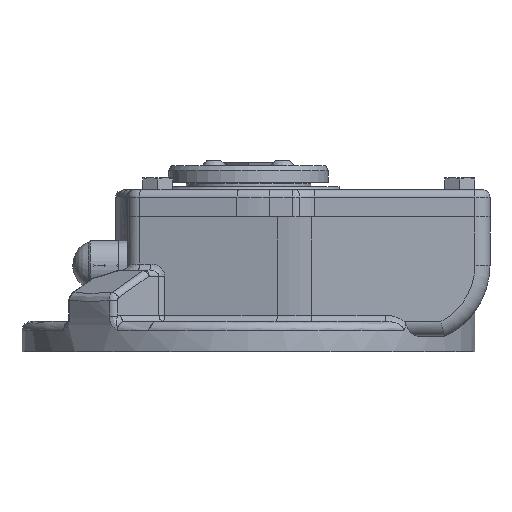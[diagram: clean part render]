
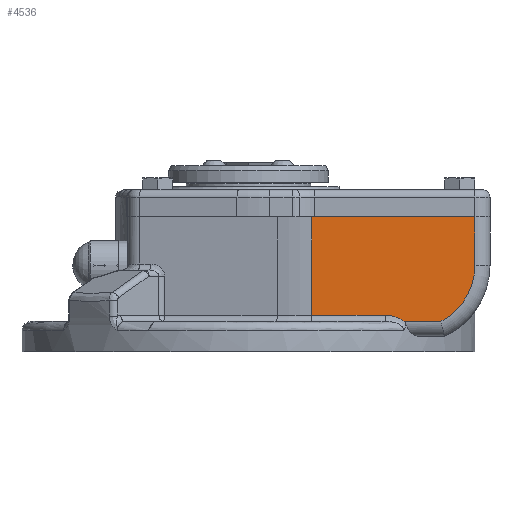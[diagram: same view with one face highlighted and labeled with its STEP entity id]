
A CAD part, left-side view. The second image highlights one B-rep face of the part: STEP entity #4536.
In plain terms, the highlighted planar face has unit normal (-1, 0, 0).
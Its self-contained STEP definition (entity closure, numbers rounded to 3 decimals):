
#4536 = ADVANCED_FACE( '', ( #9455 ), #9456, .T. );
#9455 = FACE_OUTER_BOUND( '', #48204, .T. );
#9456 = PLANE( '', #48205 );
#48204 = EDGE_LOOP( '', ( #64768, #64769, #64770, #64771, #64772, #64773, #64774, #64775 ) );
#48205 = AXIS2_PLACEMENT_3D( '', #64776, #64777, #64778 );
#64768 = ORIENTED_EDGE( '', *, *, #71957, .T. );
#64769 = ORIENTED_EDGE( '', *, *, #67606, .T. );
#64770 = ORIENTED_EDGE( '', *, *, #72564, .T. );
#64771 = ORIENTED_EDGE( '', *, *, #71972, .T. );
#64772 = ORIENTED_EDGE( '', *, *, #70055, .T. );
#64773 = ORIENTED_EDGE( '', *, *, #67521, .T. );
#64774 = ORIENTED_EDGE( '', *, *, #71078, .T. );
#64775 = ORIENTED_EDGE( '', *, *, #72137, .T. );
#64776 = CARTESIAN_POINT( '', ( -54., -52., 31.6 ) );
#64777 = DIRECTION( '', ( -1., 0., 0. ) );
#64778 = DIRECTION( '', ( 0., 1., 0. ) );
#67521 = EDGE_CURVE( '', #73647, #73645, #73648, .T. );
#67606 = EDGE_CURVE( '', #73792, #73797, #73799, .T. );
#70055 = EDGE_CURVE( '', #73774, #73647, #77758, .F. );
#71078 = EDGE_CURVE( '', #73645, #79195, #79197, .F. );
#71957 = EDGE_CURVE( '', #80296, #73792, #80298, .F. );
#71972 = EDGE_CURVE( '', #80316, #73774, #80317, .T. );
#72137 = EDGE_CURVE( '', #79195, #80296, #80510, .F. );
#72564 = EDGE_CURVE( '', #73797, #80316, #80980, .T. );
#73645 = VERTEX_POINT( '', #83355 );
#73647 = VERTEX_POINT( '', #83387 );
#73648 = B_SPLINE_CURVE_WITH_KNOTS( '', 3, ( #83388, #83389, #83390, #83391, #83392, #83393, #83394, #83395, #83396, #83397, #83398, #83399, #83400, #83401, #83402, #83403, #83404, #83405, #83406, #83407, #83408, #83409, #83410, #83411, #83412, #83413, #83414, #83415, #83416, #83417, #83418, #83419, #83420, #83421, #83422, #83423, #83424 ), .UNSPECIFIED., .F., .F., ( 4, 1, 1, 1, 1, 1, 2, 2, 2, 2, 2, 2, 2, 2, 2, 1, 2, 2, 2, 2, 1, 4 ), ( 0., 0., 0.001, 0.001, 0.002, 0.002, 0.003, 0.003, 0.004, 0.004, 0.004, 0.004, 0.005, 0.005, 0.006, 0.006, 0.006, 0.006, 0.007, 0.007, 0.007, 0.008 ), .UNSPECIFIED. );
#73774 = VERTEX_POINT( '', #83700 );
#73792 = VERTEX_POINT( '', #83732 );
#73797 = VERTEX_POINT( '', #83738 );
#73799 = LINE( '', #83740, #83741 );
#77758 = LINE( '', #94111, #94112 );
#79195 = VERTEX_POINT( '', #98279 );
#79197 = LINE( '', #98302, #98303 );
#80296 = VERTEX_POINT( '', #101230 );
#80298 = CIRCLE( '', #101251, 21. );
#80316 = VERTEX_POINT( '', #101323 );
#80317 = LINE( '', #101324, #101325 );
#80510 = LINE( '', #101801, #101802 );
#80980 = LINE( '', #102827, #102828 );
#83355 = CARTESIAN_POINT( '', ( -54., -52.048, 12.275 ) );
#83387 = CARTESIAN_POINT( '', ( -54., -45.255, 15. ) );
#83388 = CARTESIAN_POINT( '', ( -54., -45.255, 15. ) );
#83389 = CARTESIAN_POINT( '', ( -54., -45.413, 15. ) );
#83390 = CARTESIAN_POINT( '', ( -54., -45.73, 14.994 ) );
#83391 = CARTESIAN_POINT( '', ( -54., -46.201, 14.967 ) );
#83392 = CARTESIAN_POINT( '', ( -54., -46.669, 14.922 ) );
#83393 = CARTESIAN_POINT( '', ( -54., -47.134, 14.858 ) );
#83394 = CARTESIAN_POINT( '', ( -54., -47.595, 14.775 ) );
#83395 = CARTESIAN_POINT( '', ( -54., -47.901, 14.706 ) );
#83396 = CARTESIAN_POINT( '', ( -54., -48.205, 14.63 ) );
#83397 = CARTESIAN_POINT( '', ( -54., -48.356, 14.589 ) );
#83398 = CARTESIAN_POINT( '', ( -54., -48.658, 14.498 ) );
#83399 = CARTESIAN_POINT( '', ( -54., -48.808, 14.449 ) );
#83400 = CARTESIAN_POINT( '', ( -54., -48.995, 14.382 ) );
#83401 = CARTESIAN_POINT( '', ( -54., -49.032, 14.369 ) );
#83402 = CARTESIAN_POINT( '', ( -54., -49.107, 14.341 ) );
#83403 = CARTESIAN_POINT( '', ( -54., -49.144, 14.327 ) );
#83404 = CARTESIAN_POINT( '', ( -54., -49.255, 14.284 ) );
#83405 = CARTESIAN_POINT( '', ( -54., -49.329, 14.254 ) );
#83406 = CARTESIAN_POINT( '', ( -54., -49.548, 14.162 ) );
#83407 = CARTESIAN_POINT( '', ( -54., -49.693, 14.097 ) );
#83408 = CARTESIAN_POINT( '', ( -54., -49.976, 13.958 ) );
#83409 = CARTESIAN_POINT( '', ( -54., -50.116, 13.884 ) );
#83410 = CARTESIAN_POINT( '', ( -54., -50.39, 13.728 ) );
#83411 = CARTESIAN_POINT( '', ( -54., -50.525, 13.646 ) );
#83412 = CARTESIAN_POINT( '', ( -54., -50.723, 13.515 ) );
#83413 = CARTESIAN_POINT( '', ( -54., -50.821, 13.447 ) );
#83414 = CARTESIAN_POINT( '', ( -54., -50.918, 13.377 ) );
#83415 = CARTESIAN_POINT( '', ( -54., -50.982, 13.329 ) );
#83416 = CARTESIAN_POINT( '', ( -54., -51.014, 13.305 ) );
#83417 = CARTESIAN_POINT( '', ( -54., -51.171, 13.183 ) );
#83418 = CARTESIAN_POINT( '', ( -54., -51.293, 13.081 ) );
#83419 = CARTESIAN_POINT( '', ( -54., -51.526, 12.868 ) );
#83420 = CARTESIAN_POINT( '', ( -54., -51.638, 12.756 ) );
#83421 = CARTESIAN_POINT( '', ( -54., -51.798, 12.582 ) );
#83422 = CARTESIAN_POINT( '', ( -54., -51.902, 12.463 ) );
#83423 = CARTESIAN_POINT( '', ( -54., -52., 12.338 ) );
#83424 = CARTESIAN_POINT( '', ( -54., -52.048, 12.275 ) );
#83700 = CARTESIAN_POINT( '', ( -54., -21., 15. ) );
#83732 = CARTESIAN_POINT( '', ( -54., -75., 31.6 ) );
#83738 = CARTESIAN_POINT( '', ( -54., -75., 47.6 ) );
#83740 = CARTESIAN_POINT( '', ( -54., -75., 8. ) );
#83741 = VECTOR( '', #103926, 1000. );
#94111 = CARTESIAN_POINT( '', ( -54., -47.624, 15. ) );
#94112 = VECTOR( '', #106545, 1000. );
#98279 = CARTESIAN_POINT( '', ( -54., -52.048, 13. ) );
#98302 = CARTESIAN_POINT( '', ( -54., -52.048, 13. ) );
#98303 = VECTOR( '', #107619, 1000. );
#101230 = CARTESIAN_POINT( '', ( -54., -63.749, 13. ) );
#101251 = AXIS2_PLACEMENT_3D( '', #108481, #108482, #108483 );
#101323 = CARTESIAN_POINT( '', ( -54., -21., 47.6 ) );
#101324 = CARTESIAN_POINT( '', ( -54., -21., 50.6 ) );
#101325 = VECTOR( '', #108496, 1000. );
#101801 = CARTESIAN_POINT( '', ( -54., -64.911, 13. ) );
#101802 = VECTOR( '', #108624, 1000. );
#102827 = CARTESIAN_POINT( '', ( -54., -80., 47.6 ) );
#102828 = VECTOR( '', #108946, 1000. );
#103926 = DIRECTION( '', ( 0., 0., 1. ) );
#106545 = DIRECTION( '', ( 0., 1., 0. ) );
#107619 = DIRECTION( '', ( 0., 0., -1. ) );
#108481 = CARTESIAN_POINT( '', ( -54., -54., 31.6 ) );
#108482 = DIRECTION( '', ( 1., 0., 0. ) );
#108483 = DIRECTION( '', ( 0., 1., 0. ) );
#108496 = DIRECTION( '', ( 0., 0., -1. ) );
#108624 = DIRECTION( '', ( 0., 1., 0. ) );
#108946 = DIRECTION( '', ( 0., 1., 0. ) );
